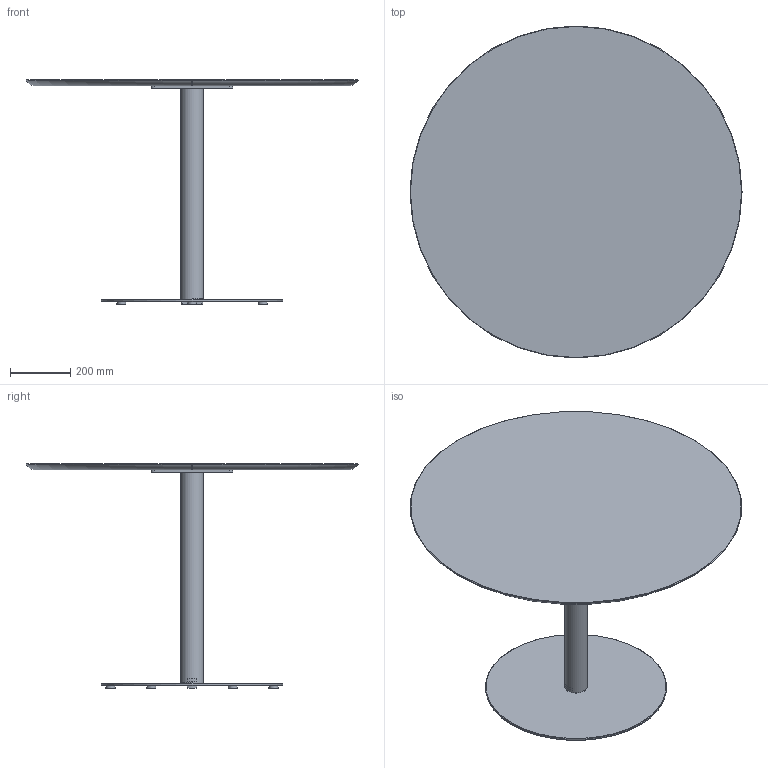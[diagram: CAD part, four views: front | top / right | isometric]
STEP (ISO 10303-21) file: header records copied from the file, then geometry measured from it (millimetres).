
FILE_DESCRIPTION( ('This file contains a STEP AP42 implementation' ,'as created by ZW3D STEP Interface translator.') ,'2;1' );
FILE_NAME( 'Henri - B_Rond - F1 - M3 - 1100 x 1100 x 750.stp' ,'24 912.151449', (''), ('ZWCAD Software Co.'), 'Version 1.0', 'ZW3D to STEP translator', '' );
FILE_SCHEMA(('AUTOMOTIVE_DESIGN { 1 0 10303 214 1 1 1 1 }'));
Length unit declared in the file: millimetre
Products named in the file (14): 0; PIED BISTROT PARAMETRIQUE_; COLONNE ACIER Ø76 V.02_; TUB-D076-02_; PLA-R76B-01_; CROIX ACIER 370 V.02_; CRX-X370-02_; SOCLE ACIER C Ø600 V.02_; SCL-D600-02_; PLA-R30A-01_; PLA-R30A-01; WUERTH 0276063020 Euro-screw 6.3x2 Verzinkt_; PLATEAU BISTROT PARAMETRIQUE_; insert_m6_13_
Assembly tree (24 placements, depth 3):
  0
  PIED BISTROT PARAMETRIQUE_
    COLONNE ACIER Ø76 V.02_
      TUB-D076-02_
      PLA-R76B-01_  x2
    CROIX ACIER 370 V.02_
      CRX-X370-02_
    SOCLE ACIER C Ø600 V.02_
      SCL-D600-02_
      PLA-R30A-01_
      PLA-R30A-01  x5
    WUERTH 0276063020 Euro-screw 6.3x2 Verzinkt_
    PLATEAU BISTROT PARAMETRIQUE_
      insert_m6_13_  x8
Bounding box: 1100 x 1100 x 744 mm (x, y, z)
Volume: 21695520.4 mm3; surface area: 3033701.2 mm2
Topology: 21 solids, 21 shells, 524 faces, 1273 edges, 802 vertices
Faces by surface type: plane 250, bspline 121, cylinder 103, cone 45, torus 5
Full cylindrical faces by diameter (mm): 4.88 x1, 6 x8, 6.3 x1, 8 x47, 12 x2, 14 x2, 30 x6, 72 x1, 76 x1, 600 x1
Entity records: 11742 total; most frequent: CARTESIAN_POINT 3302, ORIENTED_EDGE 1526, DIRECTION 1432, EDGE_CURVE 763, VERTEX_POINT 490, AXIS2_PLACEMENT_3D 482, VECTOR 468, LINE 468
